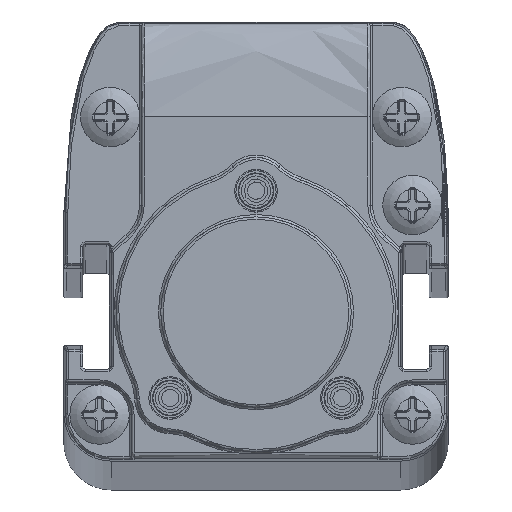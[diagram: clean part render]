
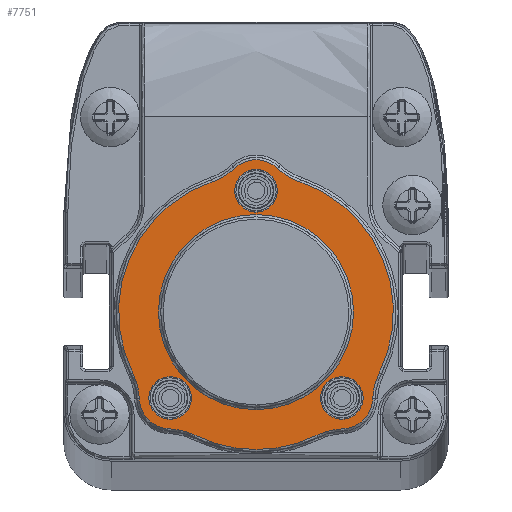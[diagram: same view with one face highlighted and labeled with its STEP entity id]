
A CAD part, top view. The second image highlights one B-rep face of the part: STEP entity #7751.
In plain terms, the highlighted planar face has unit normal (0, 0, 1).
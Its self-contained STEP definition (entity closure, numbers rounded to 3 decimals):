
#7751=ADVANCED_FACE('',(#9038,#9039,#9040,#9041,#9042),#8384,.T.);
#8384=PLANE('',#27664);
#9038=FACE_BOUND('',#10712,.T.);
#9039=FACE_BOUND('',#10713,.T.);
#9040=FACE_BOUND('',#10714,.T.);
#9041=FACE_BOUND('',#10715,.T.);
#9042=FACE_BOUND('',#10716,.T.);
#10712=EDGE_LOOP('',(#16573));
#10713=EDGE_LOOP('',(#16574));
#10714=EDGE_LOOP('',(#16575));
#10715=EDGE_LOOP('',(#16576));
#10716=EDGE_LOOP('',(#16577,#16578,#16579,#16580,#16581,#16582,#16583,#16584,
#16585,#16586,#16587,#16588));
#16573=ORIENTED_EDGE('',*,*,#22809,.T.);
#16574=ORIENTED_EDGE('',*,*,#22191,.T.);
#16575=ORIENTED_EDGE('',*,*,#22197,.T.);
#16576=ORIENTED_EDGE('',*,*,#22201,.T.);
#16577=ORIENTED_EDGE('',*,*,#22808,.T.);
#16578=ORIENTED_EDGE('',*,*,#22787,.T.);
#16579=ORIENTED_EDGE('',*,*,#22789,.T.);
#16580=ORIENTED_EDGE('',*,*,#22791,.T.);
#16581=ORIENTED_EDGE('',*,*,#22793,.T.);
#16582=ORIENTED_EDGE('',*,*,#22795,.T.);
#16583=ORIENTED_EDGE('',*,*,#22797,.T.);
#16584=ORIENTED_EDGE('',*,*,#22799,.T.);
#16585=ORIENTED_EDGE('',*,*,#22801,.T.);
#16586=ORIENTED_EDGE('',*,*,#22803,.T.);
#16587=ORIENTED_EDGE('',*,*,#22805,.T.);
#16588=ORIENTED_EDGE('',*,*,#22807,.T.);
#19293=VERTEX_POINT('',#51526);
#19299=VERTEX_POINT('',#51544);
#19303=VERTEX_POINT('',#51583);
#19651=VERTEX_POINT('',#55148);
#19652=VERTEX_POINT('',#55150);
#19653=VERTEX_POINT('',#55169);
#19654=VERTEX_POINT('',#55188);
#19655=VERTEX_POINT('',#55207);
#19656=VERTEX_POINT('',#55226);
#19657=VERTEX_POINT('',#55245);
#19658=VERTEX_POINT('',#55264);
#19659=VERTEX_POINT('',#55283);
#19660=VERTEX_POINT('',#55302);
#19661=VERTEX_POINT('',#55321);
#19662=VERTEX_POINT('',#55340);
#19663=VERTEX_POINT('',#55376);
#22191=EDGE_CURVE('',#19293,#19293,#24622,.T.);
#22197=EDGE_CURVE('',#19299,#19299,#24628,.T.);
#22201=EDGE_CURVE('',#19303,#19303,#24632,.T.);
#22787=EDGE_CURVE('',#19651,#19652,#24898,.T.);
#22789=EDGE_CURVE('',#19652,#19653,#24900,.T.);
#22791=EDGE_CURVE('',#19653,#19654,#24902,.T.);
#22793=EDGE_CURVE('',#19654,#19655,#24904,.T.);
#22795=EDGE_CURVE('',#19655,#19656,#24906,.T.);
#22797=EDGE_CURVE('',#19656,#19657,#24908,.T.);
#22799=EDGE_CURVE('',#19657,#19658,#24910,.T.);
#22801=EDGE_CURVE('',#19658,#19659,#24912,.T.);
#22803=EDGE_CURVE('',#19659,#19660,#24914,.T.);
#22805=EDGE_CURVE('',#19660,#19661,#24916,.T.);
#22807=EDGE_CURVE('',#19661,#19662,#24918,.T.);
#22808=EDGE_CURVE('',#19662,#19651,#24919,.T.);
#22809=EDGE_CURVE('',#19663,#19663,#24920,.T.);
#24622=CIRCLE('',#27179,1.8);
#24628=CIRCLE('',#27191,1.8);
#24632=CIRCLE('',#27198,8.2);
#24898=CIRCLE('',#27641,2.6);
#24900=CIRCLE('',#27643,5.2);
#24902=CIRCLE('',#27645,11.55);
#24904=CIRCLE('',#27647,5.2);
#24906=CIRCLE('',#27649,2.6);
#24908=CIRCLE('',#27651,5.2);
#24910=CIRCLE('',#27653,11.55);
#24912=CIRCLE('',#27655,5.2);
#24914=CIRCLE('',#27657,2.6);
#24916=CIRCLE('',#27659,5.2);
#24918=CIRCLE('',#27661,11.55);
#24919=CIRCLE('',#27662,5.2);
#24920=CIRCLE('',#27663,1.8);
#27179=AXIS2_PLACEMENT_3D('',#51525,#32708,#32709);
#27191=AXIS2_PLACEMENT_3D('',#51543,#32732,#32733);
#27198=AXIS2_PLACEMENT_3D('',#51582,#32746,#32747);
#27641=AXIS2_PLACEMENT_3D('',#55151,#33869,#33870);
#27643=AXIS2_PLACEMENT_3D('',#55170,#33873,#33874);
#27645=AXIS2_PLACEMENT_3D('',#55189,#33877,#33878);
#27647=AXIS2_PLACEMENT_3D('',#55208,#33881,#33882);
#27649=AXIS2_PLACEMENT_3D('',#55227,#33885,#33886);
#27651=AXIS2_PLACEMENT_3D('',#55246,#33889,#33890);
#27653=AXIS2_PLACEMENT_3D('',#55265,#33893,#33894);
#27655=AXIS2_PLACEMENT_3D('',#55284,#33897,#33898);
#27657=AXIS2_PLACEMENT_3D('',#55303,#33901,#33902);
#27659=AXIS2_PLACEMENT_3D('',#55322,#33905,#33906);
#27661=AXIS2_PLACEMENT_3D('',#55341,#33909,#33910);
#27662=AXIS2_PLACEMENT_3D('',#55358,#33911,#33912);
#27663=AXIS2_PLACEMENT_3D('',#55375,#33913,#33914);
#27664=AXIS2_PLACEMENT_3D('',#55377,#33915,#33916);
#32708=DIRECTION('',(0.,0.,-1.));
#32709=DIRECTION('',(1.,0.,0.));
#32732=DIRECTION('',(0.,0.,-1.));
#32733=DIRECTION('',(1.,0.,0.));
#32746=DIRECTION('',(0.,0.,-1.));
#32747=DIRECTION('',(1.,0.,0.));
#33869=DIRECTION('',(0.,0.,1.));
#33870=DIRECTION('',(0.687,0.727,0.));
#33873=DIRECTION('',(0.,0.,-1.));
#33874=DIRECTION('',(0.687,-0.727,0.));
#33877=DIRECTION('',(0.,0.,1.));
#33878=DIRECTION('',(-0.32,0.948,0.));
#33881=DIRECTION('',(0.,0.,-1.));
#33882=DIRECTION('',(0.896,0.444,0.));
#33885=DIRECTION('',(0.,0.,1.));
#33886=DIRECTION('',(-1.,-0.029,0.));
#33889=DIRECTION('',(0.,0.,-1.));
#33890=DIRECTION('',(0.029,1.,0.));
#33893=DIRECTION('',(0.,0.,1.));
#33894=DIRECTION('',(-0.444,-0.896,0.));
#33897=DIRECTION('',(0.,0.,-1.));
#33898=DIRECTION('',(-0.444,0.896,0.));
#33901=DIRECTION('',(0.,0.,1.));
#33902=DIRECTION('',(0.029,-1.,0.));
#33905=DIRECTION('',(0.,0.,-1.));
#33906=DIRECTION('',(-1.,0.029,0.));
#33909=DIRECTION('',(0.,0.,1.));
#33910=DIRECTION('',(0.896,-0.444,0.));
#33911=DIRECTION('',(0.,0.,-1.));
#33912=DIRECTION('',(-0.32,-0.948,0.));
#33913=DIRECTION('',(0.,0.,-1.));
#33914=DIRECTION('',(1.,0.,0.));
#33915=DIRECTION('',(0.,0.,1.));
#33916=DIRECTION('',(-1.,0.,0.));
#51525=CARTESIAN_POINT('',(7.212,-7.212,1430.24));
#51526=CARTESIAN_POINT('',(9.012,-7.212,1430.24));
#51543=CARTESIAN_POINT('',(-7.213,-7.212,1430.24));
#51544=CARTESIAN_POINT('',(-5.413,-7.212,1430.24));
#51582=CARTESIAN_POINT('',(0.,0.,1430.24));
#51583=CARTESIAN_POINT('',(8.2,0.,1430.24));
#55148=CARTESIAN_POINT('',(1.785,12.09,1430.24));
#55150=CARTESIAN_POINT('',(-1.785,12.09,1430.24));
#55151=CARTESIAN_POINT('',(0.,10.2,1430.24));
#55169=CARTESIAN_POINT('',(-3.693,10.944,1430.24));
#55170=CARTESIAN_POINT('',(-5.356,15.871,1430.24));
#55188=CARTESIAN_POINT('',(-10.35,-5.127,1430.24));
#55189=CARTESIAN_POINT('',(0.,0.,1430.24));
#55207=CARTESIAN_POINT('',(-9.811,-7.287,1430.24));
#55208=CARTESIAN_POINT('',(-15.009,-7.435,1430.24));
#55226=CARTESIAN_POINT('',(-7.287,-9.811,1430.24));
#55227=CARTESIAN_POINT('',(-7.213,-7.212,1430.24));
#55245=CARTESIAN_POINT('',(-5.127,-10.35,1430.24));
#55246=CARTESIAN_POINT('',(-7.435,-15.009,1430.24));
#55264=CARTESIAN_POINT('',(5.127,-10.35,1430.24));
#55265=CARTESIAN_POINT('',(0.,0.,1430.24));
#55283=CARTESIAN_POINT('',(7.287,-9.811,1430.24));
#55284=CARTESIAN_POINT('',(7.435,-15.009,1430.24));
#55302=CARTESIAN_POINT('',(9.811,-7.287,1430.24));
#55303=CARTESIAN_POINT('',(7.212,-7.212,1430.24));
#55321=CARTESIAN_POINT('',(10.35,-5.127,1430.24));
#55322=CARTESIAN_POINT('',(15.009,-7.435,1430.24));
#55340=CARTESIAN_POINT('',(3.693,10.944,1430.24));
#55341=CARTESIAN_POINT('',(0.,0.,1430.24));
#55358=CARTESIAN_POINT('',(5.356,15.871,1430.24));
#55375=CARTESIAN_POINT('',(0.,10.2,1430.24));
#55376=CARTESIAN_POINT('',(1.8,10.2,1430.24));
#55377=CARTESIAN_POINT('',(-12.334,-12.095,1430.24));
